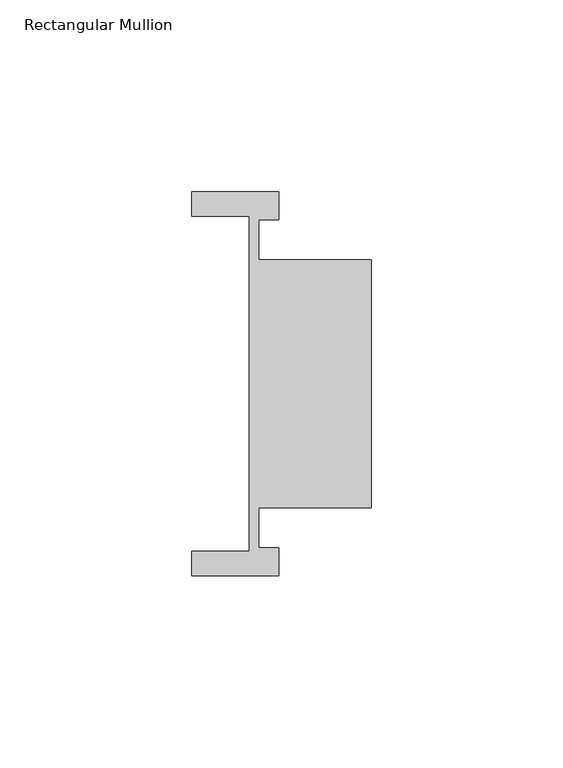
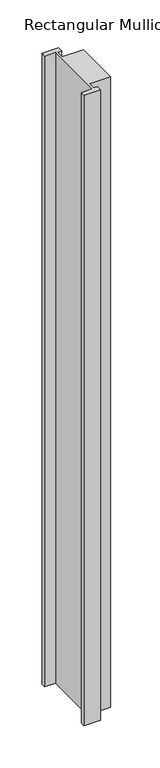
"""IFC4 building model written with IfcOpenShell, lengths in millimetres: member geometry, Rectangular Mullion : Trim-Horizontal-Teknion-Focus-FWSB."""

from ifc_helpers import new_model, si_unit, frame, origin, place, context, project, spatial, polyline, outline, extrude, source, transform, mapped, element, save


def rectangular_mullion_3b6ea71f(model_context):
    return source(origin(), model_context, "Body", "SweptSolid", [
        extrude(outline(polyline([(-24.0999916, 49.9999985), (-24.0999916, 42.725), (-29.1999916, 42.725), (-29.1999916, 32.3000006), (0.0, 32.3000006), (0.0, -32.3000006), (-29.1999916, -32.3000006), (-29.1999916, -42.725), (-24.0999916, -42.725), (-24.0999916, -49.9999985), (-46.7, -49.9999985), (-46.7, -43.6999985), (-31.6999916, -43.6999985), (-31.6999916, 43.6999985), (-46.7, 43.6999985), (-46.7, 49.9999985), (-24.0999916, 49.9999985)])), frame((0.0, 0.0, -914.4), z_axis=(0.0, 0.0, 1.0), x_axis=(1.0, 0.0, 0.0)), (0.0, 0.0, 1.0), 914.4),
    ])


if __name__ == "__main__":
    model = new_model("IFC4")
    model_context = context("Model", 3, world=origin())
    ifc_project = project(units=[si_unit("LENGTHUNIT", "METRE", prefix="MILLI")], contexts=[model_context])
    site = spatial("IfcSite", under=ifc_project)
    building = spatial("IfcBuilding", under=site)
    placement = place(None, origin())
    rectangular_mullion_shape = rectangular_mullion_3b6ea71f(model_context)
    element("IfcMember", 1, ObjectType="Rectangular Mullion : Trim-Horizontal-Teknion-Focus-FWSB", at=placement, inside=building, context=model_context, shape_type="MappedRepresentation", body=[
        mapped(rectangular_mullion_shape, transform((0.0, 0.0, 0.0), x_axis=(1.0, 0.0, 0.0), y_axis=(0.0, 1.0, 0.0), z_axis=(0.0, 0.0, 1.0))),
    ])
    save(model, "model.ifc")
